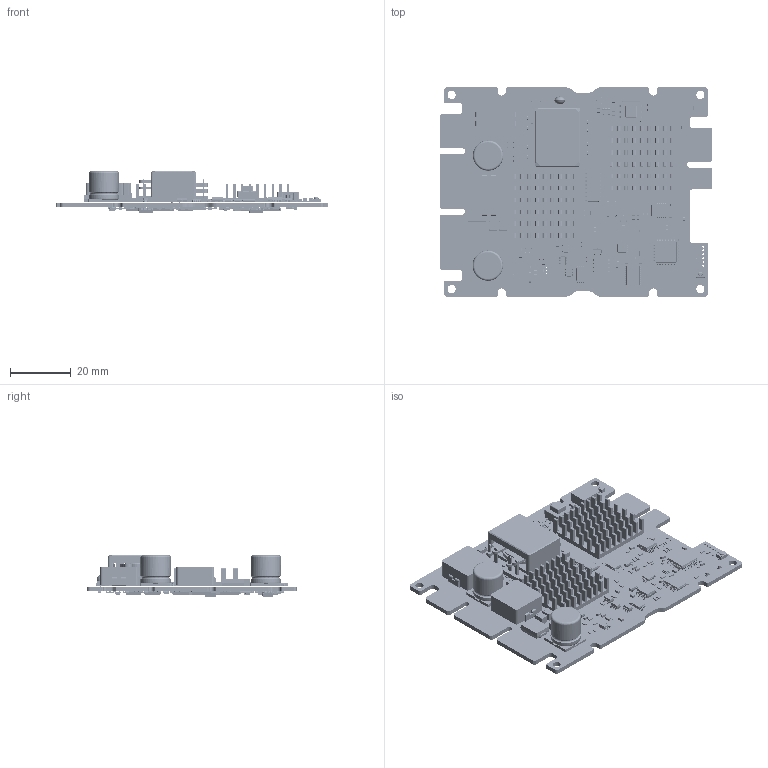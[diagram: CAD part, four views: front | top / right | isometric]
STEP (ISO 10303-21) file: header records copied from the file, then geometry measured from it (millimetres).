
FILE_DESCRIPTION(('KiCad electronic assembly'),'2;1');
FILE_NAME('module-template.step','2026-10-12T15:15:59',('Pcbnew'),( 'Kicad'),'Open CASCADE STEP processor 7.9','KiCad to STEP converter' ,'Unknown');
FILE_SCHEMA(('AUTOMOTIVE_DESIGN { 1 0 10303 214 1 1 1 1 }'));
Length unit declared in the file: millimetre
Products named in the file (63): module-template 1; C_1210_3225Metric; R_0603_1608Metric; L_0603_1608Metric; R_0402_1005Metric; SOT-23-5; LQFP-48_7x7mm_P0.5mm; Heatsink_21x21mm_H6mm; SW_SPST_B3U-1000P; C_0402_1005Metric; C_0603_1608Metric; LED_0603_1608Metric; SOT-23; D_SOD-523; C_0805_2012Metric; C_Elec_10x10.2; Filter_Pulse_PA4339_7.5x6.5mm; Bourns_SRP1265A; C_1206_3216Metric; SOT-23-6; TSSOP-8_4.4x3mm_P0.65mm; SOT-553; JEITA_SOIC-16_3.9x9.9mm_P1.27mm; C_Disc_D3.8mm_W2.6mm_P2.50mm; TSSOP-20_4.4x6.5mm_P0.65mm; SO-4_4.4x3.6mm_P2.54mm; D_SMC; MSOP-8_3x3mm_P0.65mm; D_SOD-123; Transformer_Pulse_PA1005.100NL_8.4x7.2mm; Crystal_SMD_2016-4Pin_2.0x1.6mm; SOIC-8_3.9x4.9mm_P1.27mm; T_Wurth_WE-PLN-ER19; SOLID; COMPOUND; SSOP-16_3.9x4.9mm_P0.635mm; D_SOD-323; ONSemi_SO-8FL_488AA; R_Shunt_Vishay_WSKW0612; QFN-28-1EP_5x5mm_P0.5mm_EP3.35x3.35mm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
Assembly tree (291 placements, depth 3):
  module-template 1
    C_1210_3225Metric  x5
    R_0603_1608Metric  x90
    L_0603_1608Metric  x4
    R_0402_1005Metric  x19
    SOT-23-5  x2
    LQFP-48_7x7mm_P0.5mm
    Heatsink_21x21mm_H6mm  x2
    SW_SPST_B3U-1000P
    C_0402_1005Metric  x41
    C_0603_1608Metric  x37
    LED_0603_1608Metric  x3
    SOT-23  x6
    D_SOD-523  x2
    C_0805_2012Metric  x12
    C_Elec_10x10.2  x2
    Filter_Pulse_PA4339_7.5x6.5mm
    Bourns_SRP1265A  x2
    C_1206_3216Metric
    SOT-23-6  x2
    TSSOP-8_4.4x3mm_P0.65mm
    SOT-553
    JEITA_SOIC-16_3.9x9.9mm_P1.27mm
    C_Disc_D3.8mm_W2.6mm_P2.50mm
    TSSOP-20_4.4x6.5mm_P0.65mm
    SO-4_4.4x3.6mm_P2.54mm
    D_SMC
    MSOP-8_3x3mm_P0.65mm
    D_SOD-123
    Transformer_Pulse_PA1005.100NL_8.4x7.2mm
    Crystal_SMD_2016-4Pin_2.0x1.6mm
    SOIC-8_3.9x4.9mm_P1.27mm  x3
    T_Wurth_WE-PLN-ER19
      SOLID
      SOLID
      SOLID
      SOLID
      SOLID
      SOLID
      SOLID
      SOLID
      SOLID
      SOLID
      SOLID
      SOLID
      SOLID
      SOLID
      SOLID
      SOLID
      SOLID
      COMPOUND
    SSOP-16_3.9x4.9mm_P0.635mm
    D_SOD-323  x3
    ONSemi_SO-8FL_488AA  x11
    R_Shunt_Vishay_WSKW0612
    QFN-28-1EP_5x5mm_P0.5mm_EP3.35x3.35mm
    QFN-40-1EP_6x6mm_P0.5mm
    D_PowerDI-123  x2
    R_2512_6332Metric
    TSOT-23-6
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Bounding box: 90 x 69 x 13.64 mm (x, y, z)
Volume: 18504.3 mm3; surface area: 27962.7 mm2
Topology: 305 solids, 305 shells, 13556 faces, 35851 edges, 23195 vertices
Faces by surface type: plane 8920, cylinder 3964, bspline 495, torus 153, cone 10, sphere 8, revolution 6
Full cylindrical faces by diameter (mm): 0.02 x2, 0.1 x1, 0.25 x1, 0.3 x3, 0.4 x43, 0.5 x3, 0.523 x1, 0.65 x6, 0.8 x2, 1.6 x1, 2.7 x4, 10 x4
Entity records: 212565 total; most frequent: CARTESIAN_POINT 33605, ORIENTED_EDGE 29474, DIRECTION 28155, EDGE_CURVE 14736, LINE 11166, VECTOR 11166, VERTEX_POINT 9446, AXIS2_PLACEMENT_3D 8492
